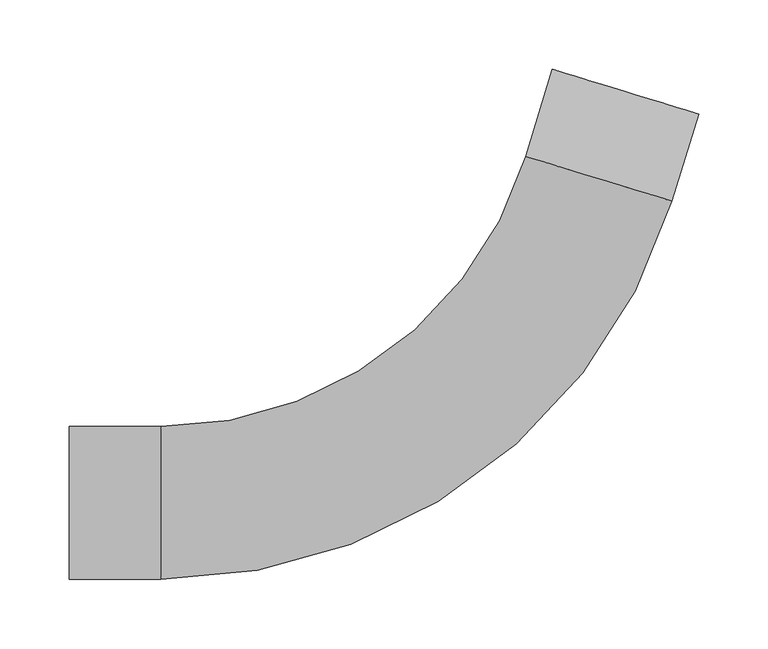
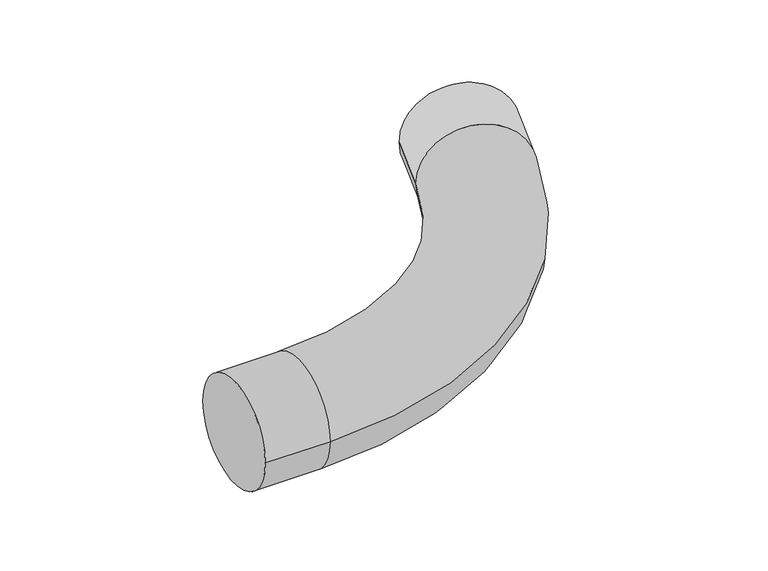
"""IFC4 building model written with IfcOpenShell, lengths in millimetres: cable carrier fitting geometry, Трубы гофрированные двустенные ПНД-ПВД : Трубы гофрированные двустенные ПНД-ПВД."""

from ifc_helpers import new_model, si_unit, point, frame, origin, place, context, project, spatial, circle_curve, ellipse_curve, trimmed, source, transform, mapped, element, save
from ifc_brep_helpers import plane_surface, cylinder_surface, revolved_surface, advanced_brep


def cable_carrier_fitting_d1a28d87(model_context):
    return source(origin(), model_context, "Body", "AdvancedBrep", [
        advanced_brep(
        [(-309.7871548, -55.0, 0.0), (-309.7871548, 55.0, 0.0), (-244.1871548, -55.0, 0.0), (-244.1871548, 55.0, 0.0), (18.7966531, 249.5977812, 0.0), (123.9901763, 217.4368937, 0.0), (143.1697601, 280.1704857, 0.0), (37.976237, 312.3313732, 0.0)],
        [
            (0, 1, circle_curve(frame((-309.7871548, 0.0, 0.0), z_axis=(-1.0, 0.0, 0.0), x_axis=(0.0, 1.0, 0.0)), 55.0)),
            (1, 0, circle_curve(frame((-309.7871548, 0.0, 0.0), z_axis=(-1.0, 0.0, 0.0), x_axis=(0.0, 1.0, 0.0)), 55.0)),
            (0, 2),
            (2, 3, circle_curve(frame((-244.1871548, 0.0, 0.0), z_axis=(-1.0, 0.0, 0.0), x_axis=(0.0, 1.0, 0.0)), 55.0)),
            (3, 1),
            (3, 2, circle_curve(frame((-244.1871548, 0.0, 0.0), z_axis=(-1.0, 0.0, 0.0), x_axis=(0.0, 1.0, 0.0)), 55.0)),
            (4, 3, circle_curve(frame((-244.1871548, 330.0, 0.0), z_axis=(0.0, 0.0, -1.0), x_axis=(0.0, -1.0, 0.0)), 275.0)),
            (2, 5, circle_curve(frame((-244.1871548, 330.0, 0.0), z_axis=(0.0, 0.0, 1.0), x_axis=(0.0, -1.0, 0.0)), 385.0)),
            (5, 4, circle_curve(frame((71.3934147, 233.5173374, 0.0), z_axis=(-0.2923717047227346, -0.9563047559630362, 0.0), x_axis=(-0.9563047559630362, 0.2923717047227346, 0.0)), 55.0)),
            (4, 5, circle_curve(frame((71.3934147, 233.5173374, 0.0), z_axis=(-0.2923717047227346, -0.9563047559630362, 0.0), x_axis=(-0.9563047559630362, 0.2923717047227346, 0.0)), 55.0)),
            (6, 7, circle_curve(frame((90.5729985, 296.2509294, 0.0), z_axis=(0.2923717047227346, 0.9563047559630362, 0.0), x_axis=(-0.9563047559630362, 0.2923717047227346, 0.0)), 55.0)),
            (7, 6, circle_curve(frame((90.5729985, 296.2509294, 0.0), z_axis=(0.2923717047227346, 0.9563047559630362, 0.0), x_axis=(-0.9563047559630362, 0.2923717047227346, 0.0)), 55.0)),
            (5, 6),
            (7, 4),
        ],
        [
            plane_surface(frame((-309.7871548, 0.0, 0.0), z_axis=(-1.0, 0.0, 0.0), x_axis=(0.0, 0.0, 1.0))),
            cylinder_surface(frame((-309.7871548, 0.0, 0.0), z_axis=(-1.0, 0.0, 0.0), x_axis=(0.0, 1.0, 0.0)), 55.0),
            revolved_surface(trimmed(ellipse_curve(frame((-244.1871548, 0.0, 0.0), z_axis=(-1.0, 0.0, 0.0), x_axis=(0.0, 1.0, 0.0)), 55.0, 55.0), [point((-244.1871548, -55.0, 0.0))], [point((-244.1871548, 55.0, 0.0))], True, "CARTESIAN"), (-244.1871548, 330.0, 0.0), (0.0, 0.0, 1.0)),
            revolved_surface(trimmed(ellipse_curve(frame((-244.1871548, 0.0, 0.0), z_axis=(-1.0, 0.0, 0.0), x_axis=(0.0, 1.0, 0.0)), 55.0, 55.0), [point((-244.1871548, 55.0, 0.0))], [point((-244.1871548, -55.0, 0.0))], True, "CARTESIAN"), (-244.1871548, 330.0, 0.0), (0.0, 0.0, 1.0)),
            plane_surface(frame((90.5729985, 296.2509294, 0.0), z_axis=(0.2923717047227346, 0.9563047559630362, 0.0), x_axis=(0.0, 0.0, 1.0))),
            cylinder_surface(frame((71.3934147, 233.5173374, 0.0), z_axis=(-0.2923717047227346, -0.9563047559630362, 0.0), x_axis=(-0.9563047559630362, 0.2923717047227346, 0.0)), 55.0),
        ],
        [
            (0, [[1, 2]]),
            (1, [[-1, 3, 4, 5]]),
            (1, [[-2, -5, 6, -3]]),
            (2, [[7, -4, 8, 9]]),
            (3, [[-8, -6, -7, 10]]),
            (4, [[11, 12]]),
            (5, [[-9, 13, -12, 14]]),
            (5, [[-10, -14, -11, -13]]),
        ],
    ),
    ])


if __name__ == "__main__":
    model = new_model("IFC4")
    model_context = context("Model", 3, world=origin())
    ifc_project = project(units=[si_unit("LENGTHUNIT", "METRE", prefix="MILLI")], contexts=[model_context])
    site = spatial("IfcSite", under=ifc_project)
    building = spatial("IfcBuilding", under=site)
    placement = place(None, origin())
    cable_carrier_fitting_shape = cable_carrier_fitting_d1a28d87(model_context)
    element("IfcCableCarrierFitting", 1, ObjectType="Трубы гофрированные двустенные ПНД-ПВД : Трубы гофрированные двустенные ПНД-ПВД", at=placement, inside=building, context=model_context, shape_type="MappedRepresentation", body=[
        mapped(cable_carrier_fitting_shape, transform((0.0, 0.0, 0.0), x_axis=(1.0, 0.0, 0.0), y_axis=(0.0, 1.0, 0.0), z_axis=(0.0, 0.0, 1.0))),
    ])
    save(model, "model.ifc")
